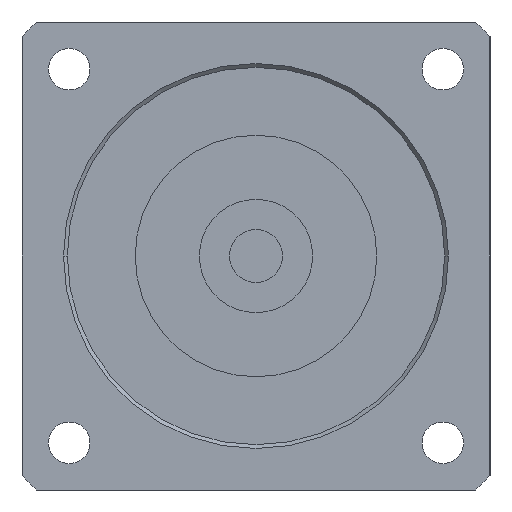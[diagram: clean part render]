
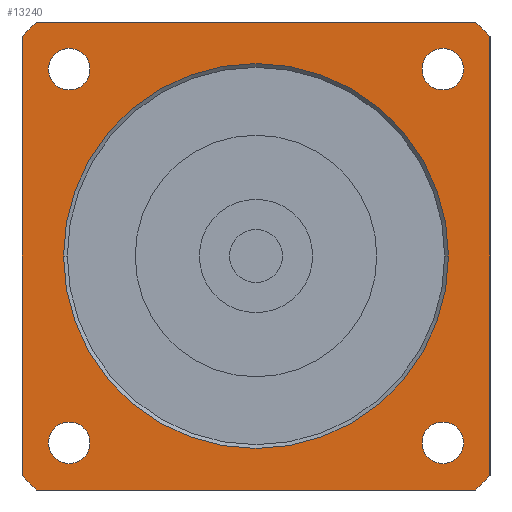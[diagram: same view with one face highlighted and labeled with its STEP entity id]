
A CAD part, left-side view. The second image highlights one B-rep face of the part: STEP entity #13240.
In plain terms, the highlighted planar face has unit normal (-1, 0, 0) as drawn and (0, 0, -1) by its records, which use the part's own axes.
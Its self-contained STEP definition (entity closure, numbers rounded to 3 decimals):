
#8680=CARTESIAN_POINT('',(24.749,-21.999,-40.5));
#8690=VERTEX_POINT('',#8680);
#8870=CARTESIAN_POINT('',(24.749,-27.499,-40.5));
#8880=VERTEX_POINT('',#8870);
#8910=CARTESIAN_POINT('',(24.749,-24.749,-40.5));
#8920=DIRECTION('',(0.,0.,1.));
#8930=DIRECTION('',(0.,1.,0.));
#8940=AXIS2_PLACEMENT_3D('',#8910,#8920,#8930);
#8950=CIRCLE('',#8940,2.75);
#8960=EDGE_CURVE('',#8880,#8690,#8950,.T.);
#9100=CARTESIAN_POINT('',(-24.749,21.999,-40.5));
#9110=VERTEX_POINT('',#9100);
#9290=CARTESIAN_POINT('',(-24.749,27.499,-40.5));
#9300=VERTEX_POINT('',#9290);
#9330=CARTESIAN_POINT('',(-24.749,24.749,-40.5));
#9340=DIRECTION('',(0.,0.,1.));
#9350=DIRECTION('',(0.,-1.,0.));
#9360=AXIS2_PLACEMENT_3D('',#9330,#9340,#9350);
#9370=CIRCLE('',#9360,2.75);
#9380=EDGE_CURVE('',#9300,#9110,#9370,.T.);
#11720=CARTESIAN_POINT('',(-25.5,0.,-40.5));
#11730=VERTEX_POINT('',#11720);
#11760=CARTESIAN_POINT('',(0.,0.,
-40.5));
#11770=DIRECTION('',(0.,0.,-1.));
#11780=DIRECTION('',(0.,-1.,0.));
#11790=AXIS2_PLACEMENT_3D('',#11760,#11770,#11780);
#11800=CIRCLE('',#11790,25.5);
#11810=CARTESIAN_POINT('',(0.,-25.5,-40.5));
#11820=VERTEX_POINT('',#11810);
#11830=EDGE_CURVE('',#11820,#11730,#11800,.T.);
#11850=CARTESIAN_POINT('',(25.5,0.,-40.5));
#11860=VERTEX_POINT('',#11850);
#11870=EDGE_CURVE('',#11860,#11820,#11800,.T.);
#11990=CARTESIAN_POINT('',(0.,-42.5,-40.5));
#12000=DIRECTION('',(0.,0.,-1.));
#12010=DIRECTION('',(0.,-1.,0.));
#12020=AXIS2_PLACEMENT_3D('',#11990,#12000,#12010);
#12030=PLANE('',#12020);
#12040=ORIENTED_EDGE('',*,*,#11830,.F.);
#12050=EDGE_CURVE('',#11730,#11860,#11800,.T.);
#12060=ORIENTED_EDGE('',*,*,#12050,.F.);
#12070=ORIENTED_EDGE('',*,*,#11870,.F.);
#12080=EDGE_LOOP('',(#12070,#12060,#12040));
#12090=FACE_BOUND('',#12080,.T.);
#12100=CARTESIAN_POINT('',(24.749,24.749,-40.5));
#12110=DIRECTION('',(0.,0.,1.));
#12120=DIRECTION('',(-1.,0.,0.));
#12130=AXIS2_PLACEMENT_3D('',#12100,#12110,#12120);
#12140=CIRCLE('',#12130,2.75);
#12150=CARTESIAN_POINT('',(21.999,24.749,-40.5));
#12160=VERTEX_POINT('',#12150);
#12170=CARTESIAN_POINT('',(27.499,24.749,-40.5));
#12180=VERTEX_POINT('',#12170);
#12190=EDGE_CURVE('',#12160,#12180,#12140,.T.);
#12200=ORIENTED_EDGE('',*,*,#12190,.T.);
#12210=EDGE_CURVE('',#12180,#12160,#12140,.T.);
#12220=ORIENTED_EDGE('',*,*,#12210,.T.);
#12230=EDGE_LOOP('',(#12220,#12200));
#12240=FACE_BOUND('',#12230,.T.);
#12250=CARTESIAN_POINT('',(-24.749,-24.749,-40.5));
#12260=DIRECTION('',(0.,0.,1.));
#12270=DIRECTION('',(1.,0.,0.));
#12280=AXIS2_PLACEMENT_3D('',#12250,#12260,#12270);
#12290=CIRCLE('',#12280,2.75);
#12300=CARTESIAN_POINT('',(-24.749,-21.999,-40.5));
#12310=VERTEX_POINT('',#12300);
#12320=CARTESIAN_POINT('',(-24.749,-27.499,-40.5));
#12330=VERTEX_POINT('',#12320);
#12340=EDGE_CURVE('',#12310,#12330,#12290,.T.);
#12350=ORIENTED_EDGE('',*,*,#12340,.T.);
#12360=CARTESIAN_POINT('',(-21.999,-24.749,-40.5));
#12370=VERTEX_POINT('',#12360);
#12380=EDGE_CURVE('',#12370,#12310,#12290,.T.);
#12390=ORIENTED_EDGE('',*,*,#12380,.T.);
#12400=EDGE_CURVE('',#12330,#12370,#12290,.T.);
#12410=ORIENTED_EDGE('',*,*,#12400,.T.);
#12420=EDGE_LOOP('',(#12410,#12390,#12350));
#12430=FACE_BOUND('',#12420,.T.);
#12440=CARTESIAN_POINT('',(-31.,-42.5,-40.5));
#12450=DIRECTION('',(0.,1.,0.));
#12460=VECTOR('',#12450,1000.);
#12470=LINE('',#12440,#12460);
#12480=CARTESIAN_POINT('',(-31.,-29.073,-40.5));
#12490=VERTEX_POINT('',#12480);
#12500=CARTESIAN_POINT('',(-31.,29.073,-40.5));
#12510=VERTEX_POINT('',#12500);
#12520=EDGE_CURVE('',#12490,#12510,#12470,.T.);
#12530=ORIENTED_EDGE('',*,*,#12520,.T.);
#12540=CARTESIAN_POINT('',(0.,0.,
-40.5));
#12550=DIRECTION('',(0.,0.,1.));
#12560=DIRECTION('',(0.,1.,0.));
#12570=AXIS2_PLACEMENT_3D('',#12540,#12550,#12560);
#12580=CIRCLE('',#12570,42.5);
#12590=CARTESIAN_POINT('',(-29.073,-31.,-40.5));
#12600=VERTEX_POINT('',#12590);
#12610=EDGE_CURVE('',#12490,#12600,#12580,.T.);
#12620=ORIENTED_EDGE('',*,*,#12610,.F.);
#12630=CARTESIAN_POINT('',(0.,-31.,-40.5));
#12640=DIRECTION('',(-1.,0.,0.));
#12650=VECTOR('',#12640,1000.);
#12660=LINE('',#12630,#12650);
#12670=CARTESIAN_POINT('',(29.073,-31.,-40.5));
#12680=VERTEX_POINT('',#12670);
#12690=EDGE_CURVE('',#12680,#12600,#12660,.T.);
#12700=ORIENTED_EDGE('',*,*,#12690,.T.);
#12710=CARTESIAN_POINT('',(0.,0.,
-40.5));
#12720=DIRECTION('',(0.,0.,1.));
#12730=DIRECTION('',(0.,1.,0.));
#12740=AXIS2_PLACEMENT_3D('',#12710,#12720,#12730);
#12750=CIRCLE('',#12740,42.5);
#12760=CARTESIAN_POINT('',(31.,-29.073,-40.5));
#12770=VERTEX_POINT('',#12760);
#12780=EDGE_CURVE('',#12680,#12770,#12750,.T.);
#12790=ORIENTED_EDGE('',*,*,#12780,.F.);
#12800=CARTESIAN_POINT('',(31.,-42.5,-40.5));
#12810=DIRECTION('',(0.,-1.,0.));
#12820=VECTOR('',#12810,1000.);
#12830=LINE('',#12800,#12820);
#12840=CARTESIAN_POINT('',(31.,29.073,-40.5));
#12850=VERTEX_POINT('',#12840);
#12860=EDGE_CURVE('',#12850,#12770,#12830,.T.);
#12870=ORIENTED_EDGE('',*,*,#12860,.T.);
#12880=CARTESIAN_POINT('',(0.,0.,
-40.5));
#12890=DIRECTION('',(0.,0.,1.));
#12900=DIRECTION('',(0.,1.,0.));
#12910=AXIS2_PLACEMENT_3D('',#12880,#12890,#12900);
#12920=CIRCLE('',#12910,42.5);
#12930=CARTESIAN_POINT('',(29.073,31.,-40.5));
#12940=VERTEX_POINT('',#12930);
#12950=EDGE_CURVE('',#12850,#12940,#12920,.T.);
#12960=ORIENTED_EDGE('',*,*,#12950,.F.);
#12970=CARTESIAN_POINT('',(0.,31.,-40.5));
#12980=DIRECTION('',(1.,0.,0.));
#12990=VECTOR('',#12980,1000.);
#13000=LINE('',#12970,#12990);
#13010=CARTESIAN_POINT('',(-29.073,31.,-40.5));
#13020=VERTEX_POINT('',#13010);
#13030=EDGE_CURVE('',#13020,#12940,#13000,.T.);
#13040=ORIENTED_EDGE('',*,*,#13030,.T.);
#13050=CARTESIAN_POINT('',(0.,0.,
-40.5));
#13060=DIRECTION('',(0.,0.,1.));
#13070=DIRECTION('',(0.,1.,0.));
#13080=AXIS2_PLACEMENT_3D('',#13050,#13060,#13070);
#13090=CIRCLE('',#13080,42.5);
#13100=EDGE_CURVE('',#13020,#12510,#13090,.T.);
#13110=ORIENTED_EDGE('',*,*,#13100,.F.);
#13120=EDGE_LOOP('',(#13110,#13040,#12960,#12870,#12790,#12700,#12620,
#12530));
#13130=FACE_OUTER_BOUND('',#13120,.T.);
#13140=EDGE_CURVE('',#9110,#9300,#9370,.T.);
#13150=ORIENTED_EDGE('',*,*,#13140,.T.);
#13160=ORIENTED_EDGE('',*,*,#9380,.T.);
#13170=EDGE_LOOP('',(#13160,#13150));
#13180=FACE_BOUND('',#13170,.T.);
#13190=EDGE_CURVE('',#8690,#8880,#8950,.T.);
#13200=ORIENTED_EDGE('',*,*,#13190,.T.);
#13210=ORIENTED_EDGE('',*,*,#8960,.T.);
#13220=EDGE_LOOP('',(#13210,#13200));
#13230=FACE_BOUND('',#13220,.T.);
#13240=ADVANCED_FACE('',(#12090,#12240,#12430,#13130,#13180,#13230),
#12030,.T.);
